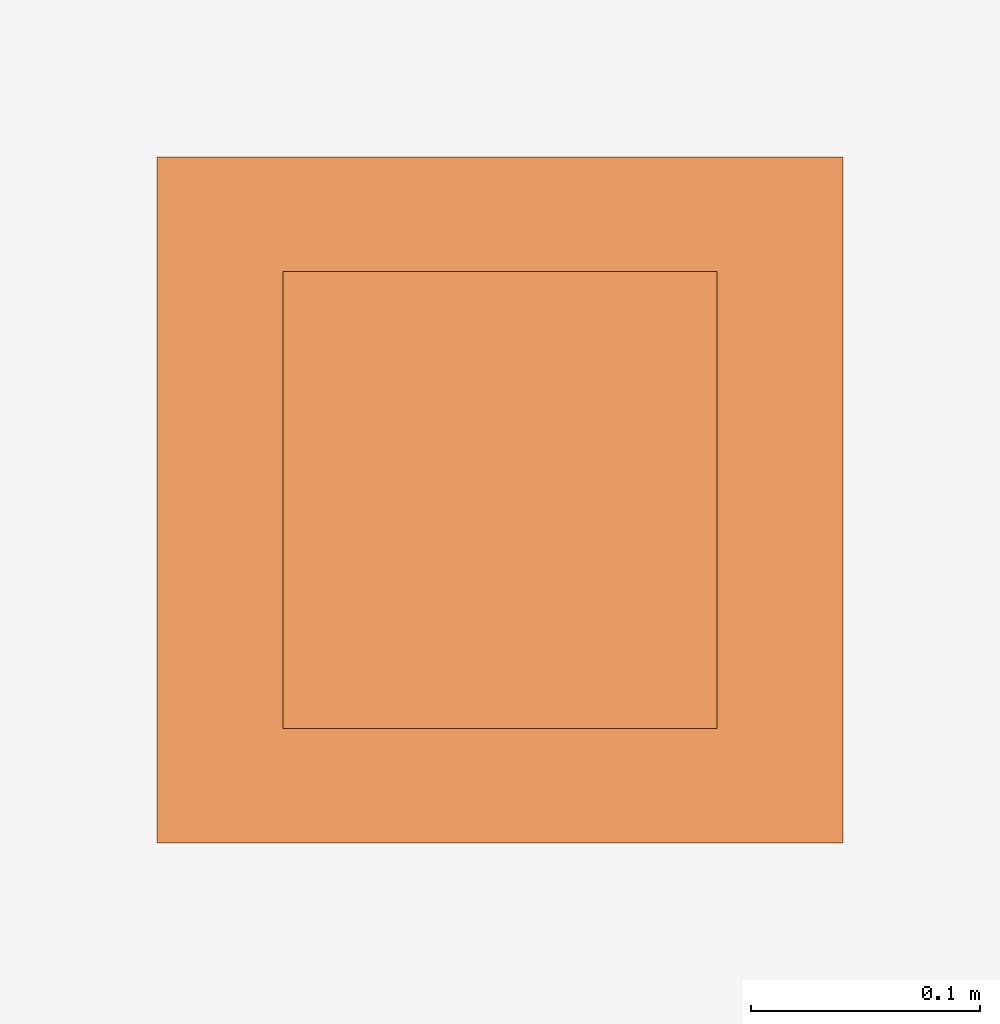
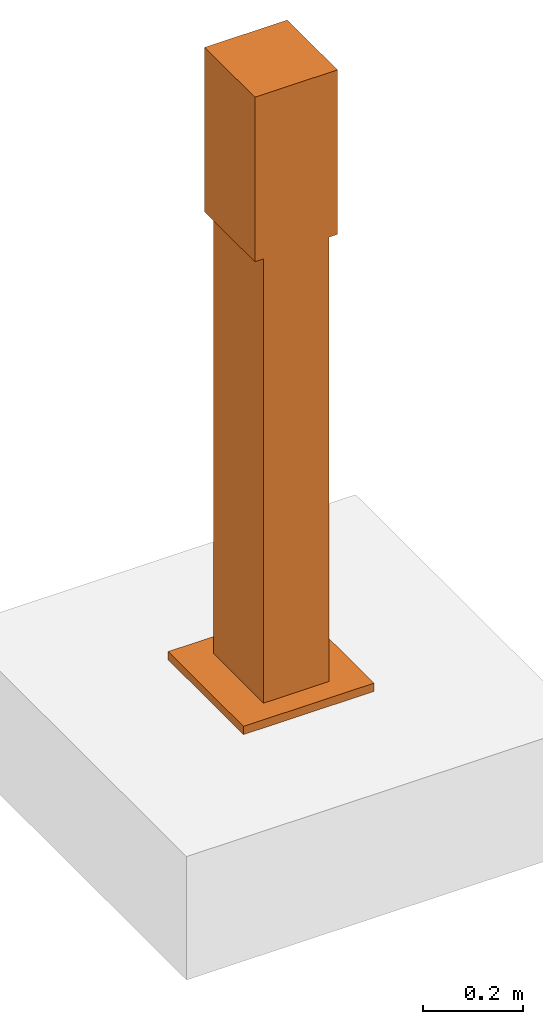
# One storey, part 2 of 2: 1 proxy.
"""IFC4 building model written with IfcOpenShell, lengths in metres."""

from ifc_helpers import new_model, entity, si_unit, converted_unit, direction, frame, frame_2d, origin, origin_2d_with_axis, place, context, subcontext, project, spatial, rectangle, extrude, source, transform, mapped, material, constituent, constituent_set, type_object, type_shapes, element, save


model = new_model("IFC4")

# Units and contexts
model_context = context("Model", 3, precision=1e-05, world=origin(), true_north=direction((6.123031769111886e-17, 1.0)))
body_context = subcontext(model_context, "Body", "Model", "MODEL_VIEW")
ifc_project = project(units=[si_unit("LENGTHUNIT", "METRE"), converted_unit("PLANEANGLEUNIT", "DEGREE", entity("IfcPlaneAngleMeasure", 0.017453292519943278), si_unit("PLANEANGLEUNIT", "RADIAN"), dimensions=[0, 0, 0, 0, 0, 0, 0]), si_unit("AREAUNIT", "SQUARE_METRE")], contexts=[model_context])

# Site, building, storey
site_placement = place(None, origin())
site = spatial("IfcSite", under=ifc_project, at=site_placement, Name="Default", CompositionType="ELEMENT")
building_placement = place(site_placement, origin())
building = spatial("IfcBuilding", under=site, at=building_placement, CompositionType="ELEMENT")
storey_placement = place(building_placement, origin())
storey = spatial("IfcBuildingStorey", under=building, at=storey_placement, Name="DB_Bezugshoehe_max_Bahnsteigkante", CompositionType="ELEMENT", Elevation=0.0)

# Proxy
ifc_material_1 = material(Name="DB_Stahl_pulverbeschichtet_RAL9006", Category="DB_Stahl")
ifc_constituent_1 = constituent(ifc_material_1, Name="DB_Stahl_pulverbeschichtet_RAL9006", Category="DB_Stahl")
ifc_material_2 = material(Name="DB_Aluminium_RAL3020", Category="DB_Aluminium")
ifc_constituent_2 = constituent(ifc_material_2, Name="DB_Aluminium_RAL3020", Category="DB_Aluminium")
ifc_constituent_set_1 = constituent_set(constituents=[ifc_constituent_1, ifc_constituent_2])
ifc_constituent_3 = constituent(ifc_material_1, Name="DB_FAM_Volumen", Category="DB_Stahl")
ifc_constituent_4 = constituent(ifc_material_2, Name="DB_FAM_Volumen", Category="DB_Aluminium")
ifc_constituent_set_2 = constituent_set(constituents=[ifc_constituent_3, ifc_constituent_4])
building_element_proxy_type = type_object("IfcBuildingElementProxyType", Name="DB_Entwerter:DB_Entwerter", PredefinedType="NOTDEFINED", material=ifc_constituent_set_2)
shared_shape = source(origin(), body_context, "Body", "SweptSolid", [
    extrude(rectangle(XDim=0.15000000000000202, YDim=0.2000000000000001, at=frame_2d((-6.38378239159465e-16, 1.6653345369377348e-15), x_axis=(1.0, 0.0))), frame((0.0, 0.0, 0.02), z_axis=(0.0, 0.0, 1.0), x_axis=(-1.0, 0.0, 0.0)), (0.0, 0.0, 1.0), 1.0800000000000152),
    extrude(rectangle(XDim=0.29999999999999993, YDim=0.29999999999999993, at=frame_2d((0.0, 2.7755575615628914e-17), x_axis=(1.0, 0.0))), frame((0.0, 0.0, 0.0), z_axis=(0.0, 0.0, 1.0), x_axis=(-1.0, 0.0, 0.0)), (0.0, 0.0, 1.0), 0.02),
    extrude(rectangle(XDim=0.18999999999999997, YDim=0.20000000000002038, at=origin_2d_with_axis()), frame((0.0, 0.0, 1.1000000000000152), z_axis=(0.0, 0.0, 1.0), x_axis=(-1.0, 0.0, 0.0)), (0.0, 0.0, 1.0), 0.3999999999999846),
])
type_shapes(building_element_proxy_type, [shared_shape])
proxy_placement = place(storey_placement, origin())
element("IfcBuildingElementProxy", 1, at=proxy_placement, inside=storey, type_object=building_element_proxy_type, material=ifc_constituent_set_1, Name="DB_Entwerter:DB_Entwerter", ObjectType="DB_Entwerter:DB_Entwerter", PredefinedType="NOTDEFINED", context=body_context, shape_type="MappedRepresentation", body=[
    mapped(shared_shape, transform((0.0, 0.0, 0.0), scale=1.0)),
])

save(model, "model.ifc")
